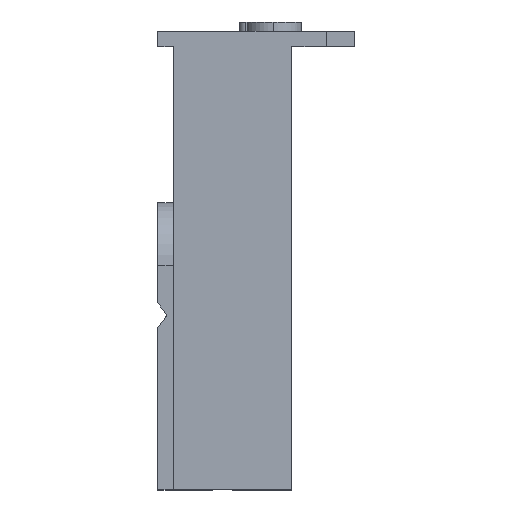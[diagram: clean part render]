
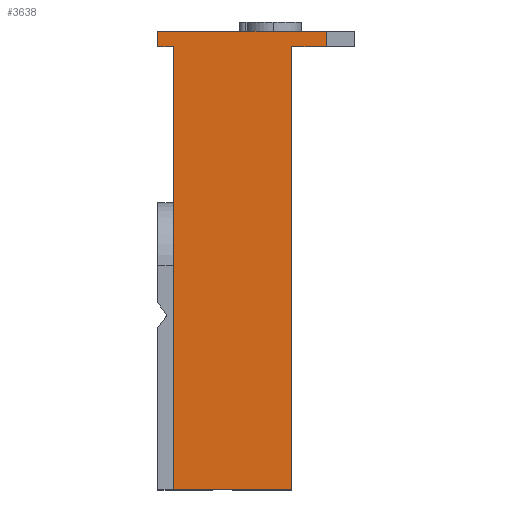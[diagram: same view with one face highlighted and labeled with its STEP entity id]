
A CAD part, left-side view. The second image highlights one B-rep face of the part: STEP entity #3638.
In plain terms, the highlighted planar face has unit normal (-1, 0, 0).
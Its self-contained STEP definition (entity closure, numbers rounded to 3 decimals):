
#107 = EDGE_CURVE ( 'NONE', #9693, #9649, #1949, .T. ) ;
#350 = CARTESIAN_POINT ( 'NONE',  ( -52.5, 67.5, 74.5 ) ) ;
#507 = CARTESIAN_POINT ( 'NONE',  ( -52.5, 92., 72. ) ) ;
#783 = ORIENTED_EDGE ( 'NONE', *, *, #1339, .F. ) ;
#795 = EDGE_CURVE ( 'NONE', #4481, #2111, #9616, .T. ) ;
#852 = DIRECTION ( 'NONE',  ( 0., 0., -1. ) ) ;
#1029 = FACE_OUTER_BOUND ( 'NONE', #6972, .T. ) ;
#1068 = ORIENTED_EDGE ( 'NONE', *, *, #107, .F. ) ;
#1111 = DIRECTION ( 'NONE',  ( 0., 0., -1. ) ) ;
#1243 = DIRECTION ( 'NONE',  ( 0., -1., 0. ) ) ;
#1339 = EDGE_CURVE ( 'NONE', #4493, #6989, #6565, .T. ) ;
#1552 = EDGE_CURVE ( 'NONE', #3573, #7938, #1799, .T. ) ;
#1799 = LINE ( 'NONE', #2450, #3619 ) ;
#1949 = LINE ( 'NONE', #5584, #3630 ) ;
#2011 = ORIENTED_EDGE ( 'NONE', *, *, #1552, .F. ) ;
#2044 = EDGE_CURVE ( 'NONE', #9649, #4493, #5029, .T. ) ;
#2071 = CARTESIAN_POINT ( 'NONE',  ( -52.5, 92., 1. ) ) ;
#2111 = VERTEX_POINT ( 'NONE', #9485 ) ;
#2115 = DIRECTION ( 'NONE',  ( 0., 1., 0. ) ) ;
#2450 = CARTESIAN_POINT ( 'NONE',  ( -52.5, 92., 1. ) ) ;
#2684 = CARTESIAN_POINT ( 'NONE',  ( -52.5, 73., 72. ) ) ;
#2693 = CARTESIAN_POINT ( 'NONE',  ( -52.5, 73., 72. ) ) ;
#3071 = DIRECTION ( 'NONE',  ( -1., 0., 0. ) ) ;
#3573 = VERTEX_POINT ( 'NONE', #2071 ) ;
#3619 = VECTOR ( 'NONE', #7910, 1000. ) ;
#3630 = VECTOR ( 'NONE', #7098, 1000. ) ;
#3638 = ADVANCED_FACE ( 'NONE', ( #1029 ), #6782, .T. ) ;
#3718 = VECTOR ( 'NONE', #1243, 1000. ) ;
#3994 = LINE ( 'NONE', #4112, #7290 ) ;
#4075 = LINE ( 'NONE', #507, #6794 ) ;
#4112 = CARTESIAN_POINT ( 'NONE',  ( -52.5, 92., 1. ) ) ;
#4253 = DIRECTION ( 'NONE',  ( 0., 1., 0. ) ) ;
#4472 = LINE ( 'NONE', #9630, #4702 ) ;
#4481 = VERTEX_POINT ( 'NONE', #2684 ) ;
#4493 = VERTEX_POINT ( 'NONE', #350 ) ;
#4702 = VECTOR ( 'NONE', #2115, 1000. ) ;
#4823 = AXIS2_PLACEMENT_3D ( 'NONE', #8366, #3071, #6144 ) ;
#4955 = ORIENTED_EDGE ( 'NONE', *, *, #795, .F. ) ;
#5029 = LINE ( 'NONE', #8736, #3718 ) ;
#5176 = CARTESIAN_POINT ( 'NONE',  ( -52.5, 94.5, 72. ) ) ;
#5584 = CARTESIAN_POINT ( 'NONE',  ( -52.5, 94.5, 72. ) ) ;
#5920 = ORIENTED_EDGE ( 'NONE', *, *, #9596, .F. ) ;
#6050 = CARTESIAN_POINT ( 'NONE',  ( -52.5, 67.5, 85.121 ) ) ;
#6144 = DIRECTION ( 'NONE',  ( 0., 0., 1. ) ) ;
#6565 = LINE ( 'NONE', #6050, #6686 ) ;
#6667 = CARTESIAN_POINT ( 'NONE',  ( -52.5, 94.5, 74.5 ) ) ;
#6686 = VECTOR ( 'NONE', #852, 1000. ) ;
#6689 = CARTESIAN_POINT ( 'NONE',  ( -52.5, 67.5, 72. ) ) ;
#6733 = ORIENTED_EDGE ( 'NONE', *, *, #7864, .F. ) ;
#6782 = PLANE ( 'NONE',  #4823 ) ;
#6794 = VECTOR ( 'NONE', #4253, 1000. ) ;
#6972 = EDGE_LOOP ( 'NONE', ( #6733, #783, #9476, #1068, #5920, #2011, #9752, #4955 ) ) ;
#6989 = VERTEX_POINT ( 'NONE', #6689 ) ;
#7098 = DIRECTION ( 'NONE',  ( 0., 0., 1. ) ) ;
#7290 = VECTOR ( 'NONE', #9394, 1000. ) ;
#7607 = VECTOR ( 'NONE', #1111, 1000. ) ;
#7651 = EDGE_CURVE ( 'NONE', #2111, #3573, #3994, .T. ) ;
#7864 = EDGE_CURVE ( 'NONE', #6989, #4481, #4472, .T. ) ;
#7910 = DIRECTION ( 'NONE',  ( 0., 0., 1. ) ) ;
#7938 = VERTEX_POINT ( 'NONE', #8219 ) ;
#8219 = CARTESIAN_POINT ( 'NONE',  ( -52.5, 92., 72. ) ) ;
#8366 = CARTESIAN_POINT ( 'NONE',  ( -52.5, 0., 0. ) ) ;
#8736 = CARTESIAN_POINT ( 'NONE',  ( -52.5, 94.5, 74.5 ) ) ;
#9394 = DIRECTION ( 'NONE',  ( 0., 1., 0. ) ) ;
#9476 = ORIENTED_EDGE ( 'NONE', *, *, #2044, .F. ) ;
#9485 = CARTESIAN_POINT ( 'NONE',  ( -52.5, 73., 1. ) ) ;
#9596 = EDGE_CURVE ( 'NONE', #7938, #9693, #4075, .T. ) ;
#9616 = LINE ( 'NONE', #2693, #7607 ) ;
#9630 = CARTESIAN_POINT ( 'NONE',  ( -52.5, 63., 72. ) ) ;
#9649 = VERTEX_POINT ( 'NONE', #6667 ) ;
#9693 = VERTEX_POINT ( 'NONE', #5176 ) ;
#9752 = ORIENTED_EDGE ( 'NONE', *, *, #7651, .F. ) ;
